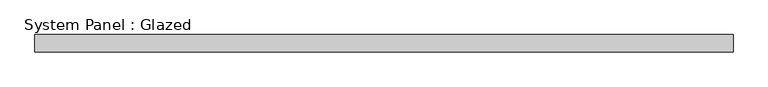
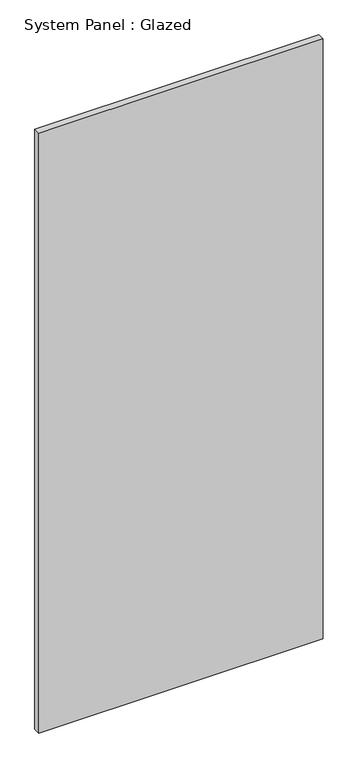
"""IFC4 building model written with IfcOpenShell, lengths in millimetres: plate geometry, System Panel : Glazed."""

from ifc_helpers import new_model, si_unit, origin, origin_with_axes, place, context, project, spatial, polyline, outline, extrude, source, transform, mapped, element, save


def system_panel_glazed_237542c0(model_context):
    return source(origin(), model_context, "Body", "SweptSolid", [
        extrude(outline(polyline([(510.0268158, -12.5), (-510.0268158, -12.5), (-510.0268158, 12.5), (510.0268158, 12.5), (510.0268158, -12.5)])), origin_with_axes(), (0.0, 0.0, 1.0), 2275.0),
    ])


if __name__ == "__main__":
    model = new_model("IFC4")
    model_context = context("Model", 3, world=origin())
    ifc_project = project(units=[si_unit("LENGTHUNIT", "METRE", prefix="MILLI")], contexts=[model_context])
    site = spatial("IfcSite", under=ifc_project)
    building = spatial("IfcBuilding", under=site)
    placement = place(None, origin())
    system_panel_glazed_shape = system_panel_glazed_237542c0(model_context)
    element("IfcPlate", 1, ObjectType="System Panel : Glazed", at=placement, inside=building, context=model_context, shape_type="MappedRepresentation", body=[
        mapped(system_panel_glazed_shape, transform((0.0, 0.0, 0.0), x_axis=(1.0, 0.0, 0.0), y_axis=(0.0, 1.0, 0.0), z_axis=(0.0, 0.0, 1.0))),
    ])
    save(model, "model.ifc")
